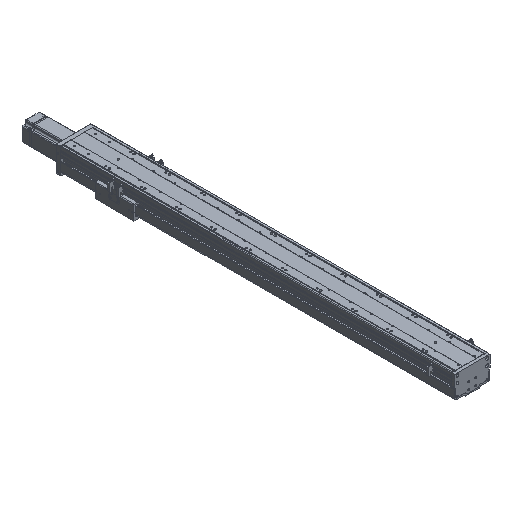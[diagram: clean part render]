
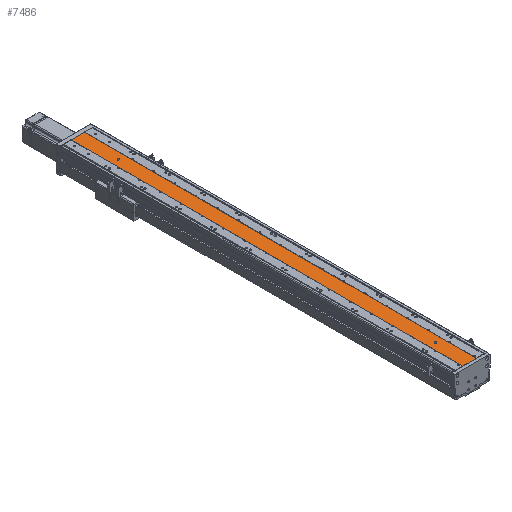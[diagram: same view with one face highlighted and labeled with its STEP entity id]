
A CAD part, isometric view. The second image highlights one B-rep face of the part: STEP entity #7486.
In plain terms, the highlighted planar face has unit normal (0, 0, 1).
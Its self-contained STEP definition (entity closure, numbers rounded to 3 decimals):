
#801 = ORIENTED_EDGE ( 'NONE', *, *, #32095, .T. ) ;
#806 = CARTESIAN_POINT ( 'NONE',  ( -10628.579, 997., -17040.86 ) ) ;
#949 = AXIS2_PLACEMENT_3D ( 'NONE', #28705, #24311, #24481 ) ;
#1113 = CARTESIAN_POINT ( 'NONE',  ( -10626.079, 997., -17040.86 ) ) ;
#1236 = DIRECTION ( 'NONE',  ( 0., 0., -1. ) ) ;
#1620 = CARTESIAN_POINT ( 'NONE',  ( -10626.079, 997., -17040.86 ) ) ;
#2757 = CARTESIAN_POINT ( 'NONE',  ( -10607.079, 0., -17040.86 ) ) ;
#3914 = CARTESIAN_POINT ( 'NONE',  ( -10645.079, 0., -17040.86 ) ) ;
#4736 = AXIS2_PLACEMENT_3D ( 'NONE', #1113, #43245, #12435 ) ;
#5655 = CARTESIAN_POINT ( 'NONE',  ( -10628.579, 97., -17040.86 ) ) ;
#6050 = EDGE_CURVE ( 'NONE', #42371, #41248, #6665, .T. ) ;
#6665 = LINE ( 'NONE', #43841, #26323 ) ;
#7486 = ADVANCED_FACE ( 'NONE', ( #8411, #17349, #16132 ), #9427, .F. ) ;
#7996 = LINE ( 'NONE', #44210, #29511 ) ;
#8411 = FACE_BOUND ( 'NONE', #16535, .T. ) ;
#8982 = DIRECTION ( 'NONE',  ( 0., 0., -1. ) ) ;
#9068 = CARTESIAN_POINT ( 'NONE',  ( -10645.079, 1112., -17040.86 ) ) ;
#9427 = PLANE ( 'NONE',  #29763 ) ;
#10013 = VECTOR ( 'NONE', #37733, 1000. ) ;
#10573 = VECTOR ( 'NONE', #16707, 1000. ) ;
#10676 = EDGE_CURVE ( 'NONE', #38587, #42371, #7996, .T. ) ;
#11431 = CARTESIAN_POINT ( 'NONE',  ( -10623.579, 997., -17040.86 ) ) ;
#12027 = VERTEX_POINT ( 'NONE', #13897 ) ;
#12102 = ORIENTED_EDGE ( 'NONE', *, *, #10676, .F. ) ;
#12413 = EDGE_LOOP ( 'NONE', ( #39724, #41441 ) ) ;
#12435 = DIRECTION ( 'NONE',  ( -1., 0., 0. ) ) ;
#12700 = ORIENTED_EDGE ( 'NONE', *, *, #18640, .T. ) ;
#12938 = LINE ( 'NONE', #9068, #10573 ) ;
#13035 = DIRECTION ( 'NONE',  ( 0., -1., 0. ) ) ;
#13897 = CARTESIAN_POINT ( 'NONE',  ( -10623.579, 97., -17040.86 ) ) ;
#14568 = DIRECTION ( 'NONE',  ( 0., 0., -1. ) ) ;
#15606 = ORIENTED_EDGE ( 'NONE', *, *, #39420, .T. ) ;
#16132 = FACE_OUTER_BOUND ( 'NONE', #35428, .T. ) ;
#16278 = CIRCLE ( 'NONE', #4736, 2.5 ) ;
#16535 = EDGE_LOOP ( 'NONE', ( #801, #15606 ) ) ;
#16707 = DIRECTION ( 'NONE',  ( 0., -1., 0. ) ) ;
#16807 = CARTESIAN_POINT ( 'NONE',  ( -10607.079, 1112., -17040.86 ) ) ;
#17349 = FACE_BOUND ( 'NONE', #12413, .T. ) ;
#18640 = EDGE_CURVE ( 'NONE', #38587, #48153, #12938, .T. ) ;
#19428 = CIRCLE ( 'NONE', #28661, 2.5 ) ;
#24311 = DIRECTION ( 'NONE',  ( 0., 0., -1. ) ) ;
#24338 = VERTEX_POINT ( 'NONE', #806 ) ;
#24481 = DIRECTION ( 'NONE',  ( -1., 0., 0. ) ) ;
#25031 = EDGE_CURVE ( 'NONE', #12027, #47614, #40390, .T. ) ;
#25382 = CARTESIAN_POINT ( 'NONE',  ( -10645.079, 1112., -17040.86 ) ) ;
#26323 = VECTOR ( 'NONE', #13035, 1000. ) ;
#27421 = CARTESIAN_POINT ( 'NONE',  ( -10626.079, 97., -17040.86 ) ) ;
#27968 = ORIENTED_EDGE ( 'NONE', *, *, #6050, .F. ) ;
#28100 = DIRECTION ( 'NONE',  ( -1., 0., 0. ) ) ;
#28661 = AXIS2_PLACEMENT_3D ( 'NONE', #1620, #8982, #43089 ) ;
#28705 = CARTESIAN_POINT ( 'NONE',  ( -10626.079, 97., -17040.86 ) ) ;
#29511 = VECTOR ( 'NONE', #32815, 1000. ) ;
#29763 = AXIS2_PLACEMENT_3D ( 'NONE', #25382, #14568, #41362 ) ;
#29899 = CARTESIAN_POINT ( 'NONE',  ( -10645.079, 1112., -17040.86 ) ) ;
#32095 = EDGE_CURVE ( 'NONE', #42664, #24338, #16278, .T. ) ;
#32815 = DIRECTION ( 'NONE',  ( 1., 0., 0. ) ) ;
#35028 = EDGE_CURVE ( 'NONE', #48153, #41248, #37640, .T. ) ;
#35428 = EDGE_LOOP ( 'NONE', ( #36154, #27968, #12102, #12700 ) ) ;
#36154 = ORIENTED_EDGE ( 'NONE', *, *, #35028, .T. ) ;
#37640 = LINE ( 'NONE', #3914, #10013 ) ;
#37733 = DIRECTION ( 'NONE',  ( 1., 0., 0. ) ) ;
#37886 = EDGE_CURVE ( 'NONE', #47614, #12027, #48943, .T. ) ;
#37957 = AXIS2_PLACEMENT_3D ( 'NONE', #27421, #1236, #28100 ) ;
#38587 = VERTEX_POINT ( 'NONE', #29899 ) ;
#39420 = EDGE_CURVE ( 'NONE', #24338, #42664, #19428, .T. ) ;
#39724 = ORIENTED_EDGE ( 'NONE', *, *, #25031, .T. ) ;
#40390 = CIRCLE ( 'NONE', #949, 2.5 ) ;
#41248 = VERTEX_POINT ( 'NONE', #2757 ) ;
#41362 = DIRECTION ( 'NONE',  ( -1., 0., 0. ) ) ;
#41441 = ORIENTED_EDGE ( 'NONE', *, *, #37886, .T. ) ;
#42371 = VERTEX_POINT ( 'NONE', #16807 ) ;
#42664 = VERTEX_POINT ( 'NONE', #11431 ) ;
#43089 = DIRECTION ( 'NONE',  ( -1., 0., 0. ) ) ;
#43245 = DIRECTION ( 'NONE',  ( 0., 0., -1. ) ) ;
#43841 = CARTESIAN_POINT ( 'NONE',  ( -10607.079, 1112., -17040.86 ) ) ;
#44210 = CARTESIAN_POINT ( 'NONE',  ( -10645.079, 1112., -17040.86 ) ) ;
#47286 = CARTESIAN_POINT ( 'NONE',  ( -10645.079, 0., -17040.86 ) ) ;
#47614 = VERTEX_POINT ( 'NONE', #5655 ) ;
#48153 = VERTEX_POINT ( 'NONE', #47286 ) ;
#48943 = CIRCLE ( 'NONE', #37957, 2.5 ) ;
